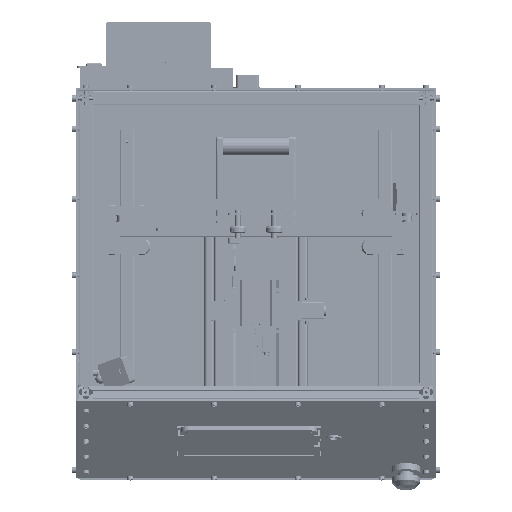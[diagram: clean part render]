
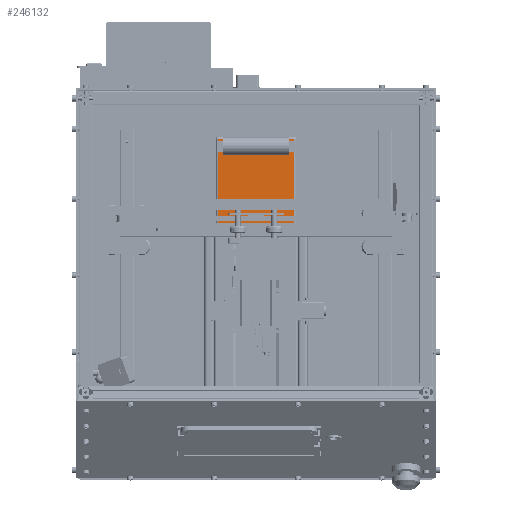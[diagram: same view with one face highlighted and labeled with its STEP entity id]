
A CAD part, top view. The second image highlights one B-rep face of the part: STEP entity #246132.
In plain terms, the highlighted planar face has unit normal (0, 0, 1).
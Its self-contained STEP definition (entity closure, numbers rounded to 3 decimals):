
#245541 = CYLINDRICAL_SURFACE('',#245542,4.);
#245542 = AXIS2_PLACEMENT_3D('',#245543,#245544,#245545);
#245543 = CARTESIAN_POINT('',(-54.,60.,32.));
#245544 = DIRECTION('',(0.,1.,0.));
#245545 = DIRECTION('',(-1.,0.,0.));
#245728 = VERTEX_POINT('',#245729);
#245729 = CARTESIAN_POINT('',(-54.,64.,36.));
#245751 = EDGE_CURVE('',#245728,#245752,#245754,.T.);
#245752 = VERTEX_POINT('',#245753);
#245753 = CARTESIAN_POINT('',(-54.,186.,36.));
#245754 = SURFACE_CURVE('',#245755,(#245759,#245766),.PCURVE_S1.);
#245755 = LINE('',#245756,#245757);
#245756 = CARTESIAN_POINT('',(-54.,60.,36.));
#245757 = VECTOR('',#245758,1.);
#245758 = DIRECTION('',(0.,1.,0.));
#245759 = PCURVE('',#245541,#245760);
#245760 = DEFINITIONAL_REPRESENTATION('',(#245761),#245765);
#245761 = LINE('',#245762,#245763);
#245762 = CARTESIAN_POINT('',(1.571,0.));
#245763 = VECTOR('',#245764,1.);
#245764 = DIRECTION('',(0.,1.));
#245765 = ( GEOMETRIC_REPRESENTATION_CONTEXT(2) 
PARAMETRIC_REPRESENTATION_CONTEXT() REPRESENTATION_CONTEXT('2D SPACE',''
  ) );
#245766 = PCURVE('',#245767,#245772);
#245767 = PLANE('',#245768);
#245768 = AXIS2_PLACEMENT_3D('',#245769,#245770,#245771);
#245769 = CARTESIAN_POINT('',(-58.,60.,36.));
#245770 = DIRECTION('',(0.,0.,1.));
#245771 = DIRECTION('',(1.,0.,0.));
#245772 = DEFINITIONAL_REPRESENTATION('',(#245773),#245777);
#245773 = LINE('',#245774,#245775);
#245774 = CARTESIAN_POINT('',(4.,0.));
#245775 = VECTOR('',#245776,1.);
#245776 = DIRECTION('',(0.,1.));
#245777 = ( GEOMETRIC_REPRESENTATION_CONTEXT(2) 
PARAMETRIC_REPRESENTATION_CONTEXT() REPRESENTATION_CONTEXT('2D SPACE',''
  ) );
#245936 = CYLINDRICAL_SURFACE('',#245937,4.);
#245937 = AXIS2_PLACEMENT_3D('',#245938,#245939,#245940);
#245938 = CARTESIAN_POINT('',(-58.,64.,32.));
#245939 = DIRECTION('',(1.,0.,0.));
#245940 = DIRECTION('',(0.,-1.,0.));
#246132 = ADVANCED_FACE('',(#246133),#245767,.T.);
#246133 = FACE_BOUND('',#246134,.T.);
#246134 = EDGE_LOOP('',(#246135,#246136,#246159,#246187));
#246135 = ORIENTED_EDGE('',*,*,#245751,.F.);
#246136 = ORIENTED_EDGE('',*,*,#246137,.T.);
#246137 = EDGE_CURVE('',#245728,#246138,#246140,.T.);
#246138 = VERTEX_POINT('',#246139);
#246139 = CARTESIAN_POINT('',(54.,64.,36.));
#246140 = SURFACE_CURVE('',#246141,(#246145,#246152),.PCURVE_S1.);
#246141 = LINE('',#246142,#246143);
#246142 = CARTESIAN_POINT('',(-58.,64.,36.));
#246143 = VECTOR('',#246144,1.);
#246144 = DIRECTION('',(1.,0.,0.));
#246145 = PCURVE('',#245767,#246146);
#246146 = DEFINITIONAL_REPRESENTATION('',(#246147),#246151);
#246147 = LINE('',#246148,#246149);
#246148 = CARTESIAN_POINT('',(0.,4.));
#246149 = VECTOR('',#246150,1.);
#246150 = DIRECTION('',(1.,0.));
#246151 = ( GEOMETRIC_REPRESENTATION_CONTEXT(2) 
PARAMETRIC_REPRESENTATION_CONTEXT() REPRESENTATION_CONTEXT('2D SPACE',''
  ) );
#246152 = PCURVE('',#245936,#246153);
#246153 = DEFINITIONAL_REPRESENTATION('',(#246154),#246158);
#246154 = LINE('',#246155,#246156);
#246155 = CARTESIAN_POINT('',(-1.571,0.));
#246156 = VECTOR('',#246157,1.);
#246157 = DIRECTION('',(-0.,1.));
#246158 = ( GEOMETRIC_REPRESENTATION_CONTEXT(2) 
PARAMETRIC_REPRESENTATION_CONTEXT() REPRESENTATION_CONTEXT('2D SPACE',''
  ) );
#246159 = ORIENTED_EDGE('',*,*,#246160,.T.);
#246160 = EDGE_CURVE('',#246138,#246161,#246163,.T.);
#246161 = VERTEX_POINT('',#246162);
#246162 = CARTESIAN_POINT('',(54.,186.,36.));
#246163 = SURFACE_CURVE('',#246164,(#246168,#246175),.PCURVE_S1.);
#246164 = LINE('',#246165,#246166);
#246165 = CARTESIAN_POINT('',(54.,60.,36.));
#246166 = VECTOR('',#246167,1.);
#246167 = DIRECTION('',(0.,1.,0.));
#246168 = PCURVE('',#245767,#246169);
#246169 = DEFINITIONAL_REPRESENTATION('',(#246170),#246174);
#246170 = LINE('',#246171,#246172);
#246171 = CARTESIAN_POINT('',(112.,0.));
#246172 = VECTOR('',#246173,1.);
#246173 = DIRECTION('',(0.,1.));
#246174 = ( GEOMETRIC_REPRESENTATION_CONTEXT(2) 
PARAMETRIC_REPRESENTATION_CONTEXT() REPRESENTATION_CONTEXT('2D SPACE',''
  ) );
#246175 = PCURVE('',#246176,#246181);
#246176 = CYLINDRICAL_SURFACE('',#246177,4.);
#246177 = AXIS2_PLACEMENT_3D('',#246178,#246179,#246180);
#246178 = CARTESIAN_POINT('',(54.,60.,32.));
#246179 = DIRECTION('',(0.,1.,0.));
#246180 = DIRECTION('',(1.,0.,-0.));
#246181 = DEFINITIONAL_REPRESENTATION('',(#246182),#246186);
#246182 = LINE('',#246183,#246184);
#246183 = CARTESIAN_POINT('',(-1.571,0.));
#246184 = VECTOR('',#246185,1.);
#246185 = DIRECTION('',(-0.,1.));
#246186 = ( GEOMETRIC_REPRESENTATION_CONTEXT(2) 
PARAMETRIC_REPRESENTATION_CONTEXT() REPRESENTATION_CONTEXT('2D SPACE',''
  ) );
#246187 = ORIENTED_EDGE('',*,*,#246188,.F.);
#246188 = EDGE_CURVE('',#245752,#246161,#246189,.T.);
#246189 = SURFACE_CURVE('',#246190,(#246194,#246201),.PCURVE_S1.);
#246190 = LINE('',#246191,#246192);
#246191 = CARTESIAN_POINT('',(-58.,186.,36.));
#246192 = VECTOR('',#246193,1.);
#246193 = DIRECTION('',(1.,0.,0.));
#246194 = PCURVE('',#245767,#246195);
#246195 = DEFINITIONAL_REPRESENTATION('',(#246196),#246200);
#246196 = LINE('',#246197,#246198);
#246197 = CARTESIAN_POINT('',(0.,126.));
#246198 = VECTOR('',#246199,1.);
#246199 = DIRECTION('',(1.,0.));
#246200 = ( GEOMETRIC_REPRESENTATION_CONTEXT(2) 
PARAMETRIC_REPRESENTATION_CONTEXT() REPRESENTATION_CONTEXT('2D SPACE',''
  ) );
#246201 = PCURVE('',#246202,#246207);
#246202 = CYLINDRICAL_SURFACE('',#246203,4.);
#246203 = AXIS2_PLACEMENT_3D('',#246204,#246205,#246206);
#246204 = CARTESIAN_POINT('',(-58.,186.,32.));
#246205 = DIRECTION('',(1.,0.,0.));
#246206 = DIRECTION('',(-0.,1.,0.));
#246207 = DEFINITIONAL_REPRESENTATION('',(#246208),#246212);
#246208 = LINE('',#246209,#246210);
#246209 = CARTESIAN_POINT('',(1.571,0.));
#246210 = VECTOR('',#246211,1.);
#246211 = DIRECTION('',(0.,1.));
#246212 = ( GEOMETRIC_REPRESENTATION_CONTEXT(2) 
PARAMETRIC_REPRESENTATION_CONTEXT() REPRESENTATION_CONTEXT('2D SPACE',''
  ) );
